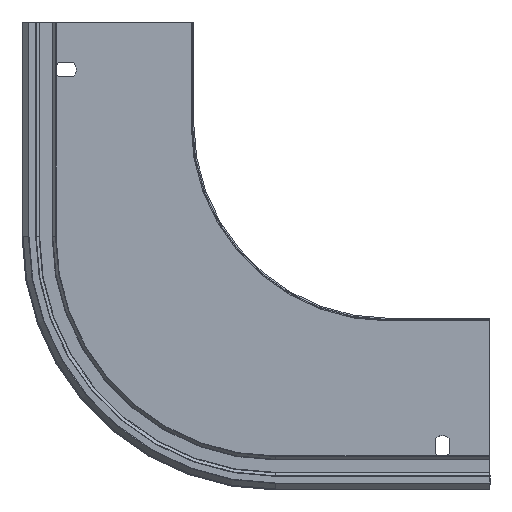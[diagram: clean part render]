
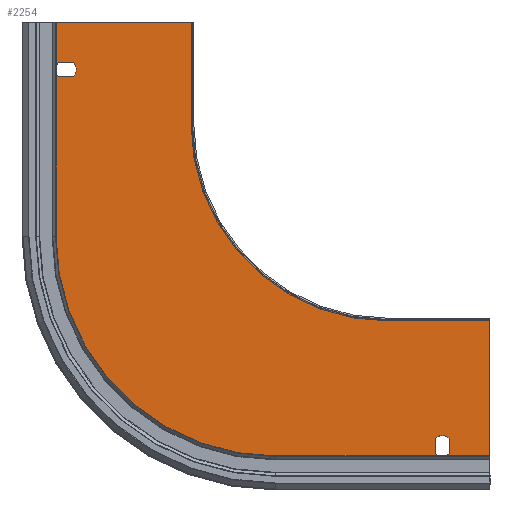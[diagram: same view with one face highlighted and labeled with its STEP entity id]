
A CAD part, left-side view. The second image highlights one B-rep face of the part: STEP entity #2254.
In plain terms, the highlighted planar face has unit normal (-1, 0, 0).
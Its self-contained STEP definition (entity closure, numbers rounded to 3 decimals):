
#99 = ORIENTED_EDGE ( 'NONE', *, *, #1027, .F. ) ;
#111 = AXIS2_PLACEMENT_3D ( 'NONE', #994, #3209, #466 ) ;
#161 = CARTESIAN_POINT ( 'NONE',  ( 0., 24., -10.472 ) ) ;
#443 = FACE_OUTER_BOUND ( 'NONE', #4690, .T. ) ;
#462 = CIRCLE ( 'NONE', #3825, 6. ) ;
#466 = DIRECTION ( 'NONE',  ( 0., 0., 1. ) ) ;
#484 = DIRECTION ( 'NONE',  ( 0., 0., -1. ) ) ;
#526 = DIRECTION ( 'NONE',  ( 0., 0., -1. ) ) ;
#563 = AXIS2_PLACEMENT_3D ( 'NONE', #5370, #3500, #5342 ) ;
#564 = ORIENTED_EDGE ( 'NONE', *, *, #5294, .F. ) ;
#645 = DIRECTION ( 'NONE',  ( 0., 0., -1. ) ) ;
#669 = EDGE_CURVE ( 'NONE', #3939, #1083, #5901, .T. ) ;
#838 = DIRECTION ( 'NONE',  ( 1., 0., 0. ) ) ;
#844 = FACE_BOUND ( 'NONE', #1254, .T. ) ;
#856 = VECTOR ( 'NONE', #2480, 1000. ) ;
#874 = EDGE_CURVE ( 'NONE', #1827, #4732, #3770, .T. ) ;
#939 = PLANE ( 'NONE',  #4863 ) ;
#972 = CARTESIAN_POINT ( 'NONE',  ( 0., 175.2, -255.2 ) ) ;
#994 = CARTESIAN_POINT ( 'NONE',  ( 0., 60., -195.2 ) ) ;
#1027 = EDGE_CURVE ( 'NONE', #4732, #5284, #2266, .T. ) ;
#1035 = CARTESIAN_POINT ( 'NONE',  ( 0., 24., 0. ) ) ;
#1078 = DIRECTION ( 'NONE',  ( 0., 0., 1. ) ) ;
#1083 = VERTEX_POINT ( 'NONE', #3652 ) ;
#1086 = ORIENTED_EDGE ( 'NONE', *, *, #2122, .F. ) ;
#1149 = CARTESIAN_POINT ( 'NONE',  ( 0., 0., -231.2 ) ) ;
#1191 = CARTESIAN_POINT ( 'NONE',  ( 0., 32., 0. ) ) ;
#1192 = DIRECTION ( 'NONE',  ( 0., 0., -1. ) ) ;
#1227 = CARTESIAN_POINT ( 'NONE',  ( 0., 0., -223.2 ) ) ;
#1236 = ORIENTED_EDGE ( 'NONE', *, *, #1356, .T. ) ;
#1254 = EDGE_LOOP ( 'NONE', ( #2554, #1236, #3353, #3696, #2200 ) ) ;
#1324 = LINE ( 'NONE', #4626, #3527 ) ;
#1333 = VECTOR ( 'NONE', #5021, 1000. ) ;
#1356 = EDGE_CURVE ( 'NONE', #1928, #2097, #462, .T. ) ;
#1430 = AXIS2_PLACEMENT_3D ( 'NONE', #4728, #4639, #526 ) ;
#1452 = EDGE_CURVE ( 'NONE', #1567, #3939, #5232, .T. ) ;
#1490 = EDGE_CURVE ( 'NONE', #2568, #4874, #1946, .T. ) ;
#1501 = DIRECTION ( 'NONE',  ( 1., 0., 0. ) ) ;
#1556 = EDGE_CURVE ( 'NONE', #2568, #4088, #3525, .T. ) ;
#1558 = EDGE_CURVE ( 'NONE', #1573, #4311, #5523, .T. ) ;
#1567 = VERTEX_POINT ( 'NONE', #161 ) ;
#1573 = VERTEX_POINT ( 'NONE', #3357 ) ;
#1713 = CARTESIAN_POINT ( 'NONE',  ( 0., 0., -80. ) ) ;
#1740 = VECTOR ( 'NONE', #1192, 1000. ) ;
#1827 = VERTEX_POINT ( 'NONE', #3166 ) ;
#1844 = CARTESIAN_POINT ( 'NONE',  ( 0., 32., -1.528 ) ) ;
#1928 = VERTEX_POINT ( 'NONE', #1844 ) ;
#1946 = LINE ( 'NONE', #4445, #4676 ) ;
#2097 = VERTEX_POINT ( 'NONE', #2136 ) ;
#2112 = CARTESIAN_POINT ( 'NONE',  ( 0., 0., 0. ) ) ;
#2122 = EDGE_CURVE ( 'NONE', #3202, #5128, #5724, .T. ) ;
#2136 = CARTESIAN_POINT ( 'NONE',  ( 0., 24., -1.528 ) ) ;
#2181 = DIRECTION ( 'NONE',  ( 0., 1., 0. ) ) ;
#2200 = ORIENTED_EDGE ( 'NONE', *, *, #669, .T. ) ;
#2253 = EDGE_CURVE ( 'NONE', #4088, #5284, #1324, .T. ) ;
#2254 = ADVANCED_FACE ( 'NONE', ( #844, #4593, #443 ), #939, .F. ) ;
#2266 = LINE ( 'NONE', #3244, #1333 ) ;
#2276 = ORIENTED_EDGE ( 'NONE', *, *, #2746, .T. ) ;
#2313 = CARTESIAN_POINT ( 'NONE',  ( 0., 0., 0. ) ) ;
#2355 = CARTESIAN_POINT ( 'NONE',  ( 0., 28., -12. ) ) ;
#2378 = VECTOR ( 'NONE', #3409, 1000. ) ;
#2470 = DIRECTION ( 'NONE',  ( -1., 0., 0. ) ) ;
#2480 = DIRECTION ( 'NONE',  ( 0., -1., 0. ) ) ;
#2487 = EDGE_CURVE ( 'NONE', #2097, #1567, #2893, .T. ) ;
#2554 = ORIENTED_EDGE ( 'NONE', *, *, #3481, .T. ) ;
#2568 = VERTEX_POINT ( 'NONE', #5300 ) ;
#2598 = CARTESIAN_POINT ( 'NONE',  ( 0., 255.531, -129.2 ) ) ;
#2607 = EDGE_CURVE ( 'NONE', #4311, #3376, #4909, .T. ) ;
#2663 = DIRECTION ( 'NONE',  ( 0., 0., -1. ) ) ;
#2730 = CARTESIAN_POINT ( 'NONE',  ( 0., 249.2, -227.2 ) ) ;
#2746 = EDGE_CURVE ( 'NONE', #3376, #5635, #4103, .T. ) ;
#2795 = ORIENTED_EDGE ( 'NONE', *, *, #5618, .F. ) ;
#2803 = CIRCLE ( 'NONE', #111, 115.2 ) ;
#2893 = LINE ( 'NONE', #1035, #3913 ) ;
#2894 = EDGE_LOOP ( 'NONE', ( #5018, #2276, #4247, #5171 ) ) ;
#2977 = EDGE_CURVE ( 'NONE', #5635, #1573, #3450, .T. ) ;
#3079 = CARTESIAN_POINT ( 'NONE',  ( 0., 253.672, -223.2 ) ) ;
#3166 = CARTESIAN_POINT ( 'NONE',  ( 0., 175.2, -195.2 ) ) ;
#3202 = VERTEX_POINT ( 'NONE', #4183 ) ;
#3209 = DIRECTION ( 'NONE',  ( -1., 0., 0. ) ) ;
#3244 = CARTESIAN_POINT ( 'NONE',  ( 0., 174.2, -255.2 ) ) ;
#3326 = CARTESIAN_POINT ( 'NONE',  ( 0., 126., -129.2 ) ) ;
#3353 = ORIENTED_EDGE ( 'NONE', *, *, #2487, .T. ) ;
#3357 = CARTESIAN_POINT ( 'NONE',  ( 0., 244.728, -223.2 ) ) ;
#3376 = VERTEX_POINT ( 'NONE', #4913 ) ;
#3393 = ORIENTED_EDGE ( 'NONE', *, *, #1490, .F. ) ;
#3398 = CARTESIAN_POINT ( 'NONE',  ( 0., 0., 0.331 ) ) ;
#3409 = DIRECTION ( 'NONE',  ( 0., 0., -1. ) ) ;
#3450 = LINE ( 'NONE', #1227, #856 ) ;
#3481 = EDGE_CURVE ( 'NONE', #1083, #1928, #5386, .T. ) ;
#3500 = DIRECTION ( 'NONE',  ( 1., 0., 0. ) ) ;
#3525 = CIRCLE ( 'NONE', #4376, 129.531 ) ;
#3527 = VECTOR ( 'NONE', #484, 1000. ) ;
#3542 = DIRECTION ( 'NONE',  ( 0., 1., 0. ) ) ;
#3547 = LINE ( 'NONE', #2112, #1740 ) ;
#3652 = CARTESIAN_POINT ( 'NONE',  ( 0., 32., -10.472 ) ) ;
#3696 = ORIENTED_EDGE ( 'NONE', *, *, #1452, .T. ) ;
#3711 = CARTESIAN_POINT ( 'NONE',  ( 0., 255.531, -255.2 ) ) ;
#3770 = LINE ( 'NONE', #4176, #2378 ) ;
#3774 = DIRECTION ( 'NONE',  ( 0., 0., -1. ) ) ;
#3825 = AXIS2_PLACEMENT_3D ( 'NONE', #4264, #5167, #3774 ) ;
#3828 = AXIS2_PLACEMENT_3D ( 'NONE', #2730, #838, #2663 ) ;
#3894 = DIRECTION ( 'NONE',  ( 0., 0., 1. ) ) ;
#3913 = VECTOR ( 'NONE', #4256, 1000. ) ;
#3939 = VERTEX_POINT ( 'NONE', #2355 ) ;
#4080 = CARTESIAN_POINT ( 'NONE',  ( 0., 60., -80. ) ) ;
#4088 = VERTEX_POINT ( 'NONE', #2598 ) ;
#4103 = CIRCLE ( 'NONE', #3828, 6. ) ;
#4105 = DIRECTION ( 'NONE',  ( 1., 0., 0. ) ) ;
#4176 = CARTESIAN_POINT ( 'NONE',  ( 0., 175.2, -195.2 ) ) ;
#4183 = CARTESIAN_POINT ( 'NONE',  ( 0., 0., -80. ) ) ;
#4247 = ORIENTED_EDGE ( 'NONE', *, *, #2977, .T. ) ;
#4256 = DIRECTION ( 'NONE',  ( 0., 0., -1. ) ) ;
#4264 = CARTESIAN_POINT ( 'NONE',  ( 0., 28., -6. ) ) ;
#4288 = VECTOR ( 'NONE', #3542, 1000. ) ;
#4311 = VERTEX_POINT ( 'NONE', #5070 ) ;
#4332 = DIRECTION ( 'NONE',  ( 0., -1., 0. ) ) ;
#4376 = AXIS2_PLACEMENT_3D ( 'NONE', #3326, #2470, #1078 ) ;
#4445 = CARTESIAN_POINT ( 'NONE',  ( 0., 126., 0.331 ) ) ;
#4593 = FACE_BOUND ( 'NONE', #2894, .T. ) ;
#4626 = CARTESIAN_POINT ( 'NONE',  ( 0., 255.531, -129.2 ) ) ;
#4639 = DIRECTION ( 'NONE',  ( 1., 0., 0. ) ) ;
#4658 = ORIENTED_EDGE ( 'NONE', *, *, #874, .F. ) ;
#4676 = VECTOR ( 'NONE', #4332, 1000. ) ;
#4690 = EDGE_LOOP ( 'NONE', ( #2795, #3393, #5295, #5458, #99, #4658, #564, #1086 ) ) ;
#4728 = CARTESIAN_POINT ( 'NONE',  ( 0., 28., -6. ) ) ;
#4732 = VERTEX_POINT ( 'NONE', #972 ) ;
#4863 = AXIS2_PLACEMENT_3D ( 'NONE', #2313, #4105, #5064 ) ;
#4869 = VECTOR ( 'NONE', #2181, 1000. ) ;
#4874 = VERTEX_POINT ( 'NONE', #3398 ) ;
#4909 = LINE ( 'NONE', #1149, #4869 ) ;
#4913 = CARTESIAN_POINT ( 'NONE',  ( 0., 253.672, -231.2 ) ) ;
#5018 = ORIENTED_EDGE ( 'NONE', *, *, #2607, .T. ) ;
#5021 = DIRECTION ( 'NONE',  ( 0., 1., 0. ) ) ;
#5064 = DIRECTION ( 'NONE',  ( 0., 0., -1. ) ) ;
#5070 = CARTESIAN_POINT ( 'NONE',  ( 0., 244.728, -231.2 ) ) ;
#5128 = VERTEX_POINT ( 'NONE', #4080 ) ;
#5167 = DIRECTION ( 'NONE',  ( 1., 0., 0. ) ) ;
#5171 = ORIENTED_EDGE ( 'NONE', *, *, #1558, .T. ) ;
#5232 = CIRCLE ( 'NONE', #1430, 6. ) ;
#5284 = VERTEX_POINT ( 'NONE', #3711 ) ;
#5294 = EDGE_CURVE ( 'NONE', #5128, #1827, #2803, .T. ) ;
#5295 = ORIENTED_EDGE ( 'NONE', *, *, #1556, .T. ) ;
#5300 = CARTESIAN_POINT ( 'NONE',  ( 0., 126., 0.331 ) ) ;
#5342 = DIRECTION ( 'NONE',  ( 0., 0., -1. ) ) ;
#5370 = CARTESIAN_POINT ( 'NONE',  ( 0., 28., -6. ) ) ;
#5386 = LINE ( 'NONE', #1191, #5636 ) ;
#5458 = ORIENTED_EDGE ( 'NONE', *, *, #2253, .T. ) ;
#5523 = CIRCLE ( 'NONE', #5794, 6. ) ;
#5608 = CARTESIAN_POINT ( 'NONE',  ( 0., 249.2, -227.2 ) ) ;
#5618 = EDGE_CURVE ( 'NONE', #4874, #3202, #3547, .T. ) ;
#5635 = VERTEX_POINT ( 'NONE', #3079 ) ;
#5636 = VECTOR ( 'NONE', #3894, 1000. ) ;
#5724 = LINE ( 'NONE', #1713, #4288 ) ;
#5794 = AXIS2_PLACEMENT_3D ( 'NONE', #5608, #1501, #645 ) ;
#5901 = CIRCLE ( 'NONE', #563, 6. ) ;
